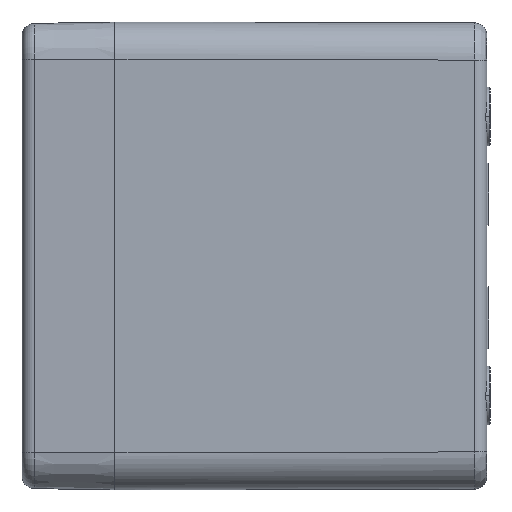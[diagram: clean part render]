
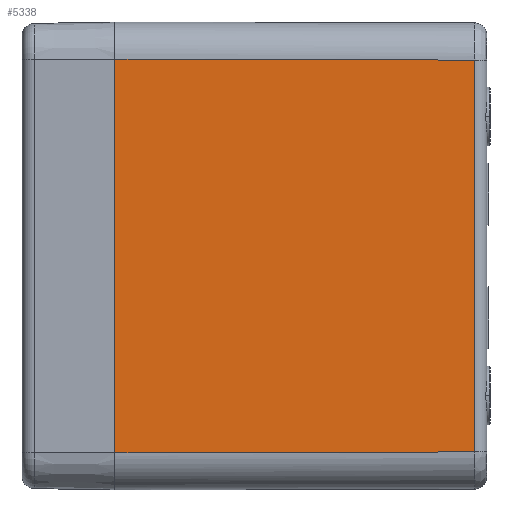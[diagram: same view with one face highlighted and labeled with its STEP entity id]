
A CAD part, left-side view. The second image highlights one B-rep face of the part: STEP entity #5338.
In plain terms, the highlighted planar face has unit normal (-1, -0.003, 0).
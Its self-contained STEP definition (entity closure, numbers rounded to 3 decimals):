
#536=CARTESIAN_POINT('',(-55.25,0.,-31.75));
#588=CARTESIAN_POINT('',(-55.25,0.,31.75));
#601=DIRECTION('',(0.,0.,-1.));
#602=VECTOR('',#601,63.5);
#603=CARTESIAN_POINT('',(-55.25,0.,31.75));
#604=LINE('',#603,#602);
#1602=DIRECTION('',(0.,0.,1.));
#1603=VECTOR('',#1602,63.21);
#1604=CARTESIAN_POINT('',(-55.105,-58.005,
-31.605));
#1605=LINE('',#1604,#1603);
#1651=DIRECTION('',(-0.003,1.,-0.002));
#1652=VECTOR('',#1651,58.005);
#1653=CARTESIAN_POINT('',(-55.105,-58.005,
-31.605));
#1654=LINE('',#1653,#1652);
#1658=DIRECTION('',(-0.003,1.,0.002));
#1659=VECTOR('',#1658,58.005);
#1660=CARTESIAN_POINT('',(-55.105,-58.005,
31.605));
#1661=LINE('',#1660,#1659);
#1665=CARTESIAN_POINT('',(-55.105,-58.005,
-31.605));
#1776=CARTESIAN_POINT('',(-55.105,-58.005,
31.605));
#3370=VERTEX_POINT('',#536);
#3375=VERTEX_POINT('',#588);
#3379=VERTEX_POINT('',#1665);
#3396=VERTEX_POINT('',#1776);
#5325=CARTESIAN_POINT('',(-55.175,-30.,0.));
#5326=DIRECTION('',(1.,0.002,0.));
#5327=DIRECTION('',(-0.002,1.,0.));
#5328=AXIS2_PLACEMENT_3D('',#5325,#5326,#5327);
#5329=PLANE('',#5328);
#5330=ORIENTED_EDGE('',*,*,#5264,.F.);
#5332=ORIENTED_EDGE('',*,*,#5331,.T.);
#5333=ORIENTED_EDGE('',*,*,#3830,.F.);
#5335=ORIENTED_EDGE('',*,*,#5334,.F.);
#5336=EDGE_LOOP('',(#5330,#5332,#5333,#5335));
#5337=FACE_OUTER_BOUND('',#5336,.F.);
#3830=EDGE_CURVE('',#3375,#3370,#604,.T.);
#5264=EDGE_CURVE('',#3379,#3396,#1605,.T.);
#5331=EDGE_CURVE('',#3379,#3370,#1654,.T.);
#5334=EDGE_CURVE('',#3396,#3375,#1661,.T.);
#5338=ADVANCED_FACE('',(#5337),#5329,.F.);
